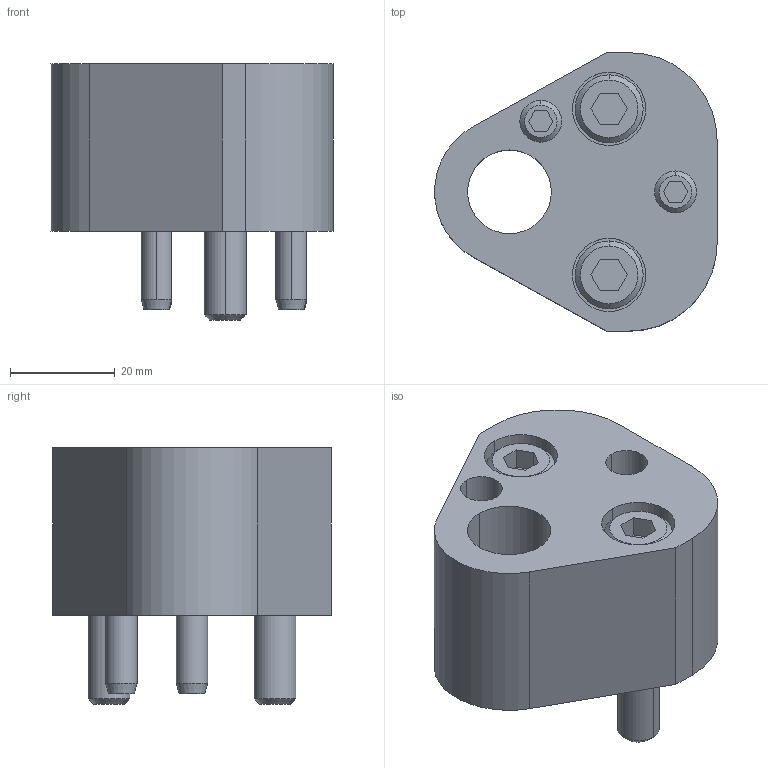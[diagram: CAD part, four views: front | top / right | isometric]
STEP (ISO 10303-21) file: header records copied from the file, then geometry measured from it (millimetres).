
FILE_DESCRIPTION(/* description */ (''),/* implementation_level */ '2;1');
FILE_NAME(/* name */ '3d_crnar16_03628_r00.stp',/* time_stamp */ '2011-01-10T14:16:20+09:00',/* author */ ('MISUMI'),/* organization */ (''),/* preprocessor_version */ 'ST-DEVELOPER v11',/* originating_system */ 'UGS - NX 5.0',/* authorisation */ '');
FILE_SCHEMA (('CONFIG_CONTROL_DESIGN'));
Length unit declared in the file: millimetre
Products named in the file (1): 3d_crnar16_03628_r00
Bounding box: 53.95 x 53.2 x 49 mm (x, y, z)
Volume: 60954.9 mm3; surface area: 19474.1 mm2
Topology: 7 solids, 7 shells, 135 faces, 294 edges, 188 vertices
Faces by surface type: plane 60, cylinder 49, cone 26
Entity records: 3836 total; most frequent: DIRECTION 684, CARTESIAN_POINT 672, ORIENTED_EDGE 588, EDGE_CURVE 294, AXIS2_PLACEMENT_3D 260, VERTEX_POINT 188, LINE 164, VECTOR 164
